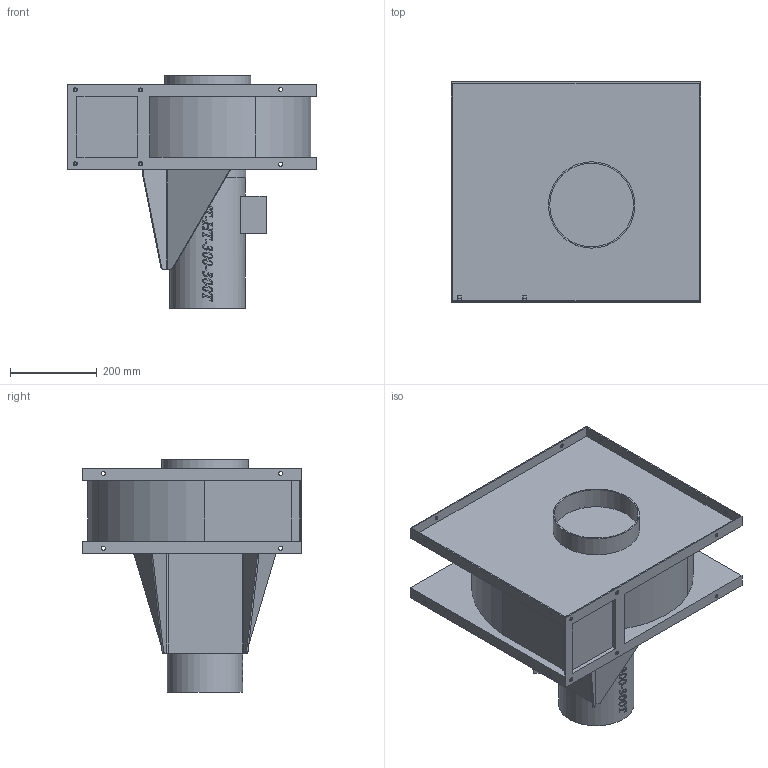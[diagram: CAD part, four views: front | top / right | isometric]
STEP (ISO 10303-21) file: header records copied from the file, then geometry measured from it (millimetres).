
FILE_DESCRIPTION(/* description */ (''),/* implementation_level */ '2;1');
FILE_NAME(/* name */ 'E:\Mariusz\Modele uproszczone\GMT-HT\Katalogowe\GMT_HT_300_300T RD270 43552455\GMT_HT_300_300T RD270 43552455\GMT_HT_300_300T RD270 43552455.stp',/* time_stamp */ '2019-11-04T13:51:10+01:00',/* author */ ('m.janczarek'),/* organization */ (''),/* preprocessor_version */ 'ST-DEVELOPER v16.13',/* originating_system */ 'Autodesk Inventor 2018',/* authorisation */ '');
FILE_SCHEMA (('AUTOMOTIVE_DESIGN { 1 0 10303 214 3 1 1 }'));
Products named in the file (1): GMT_HT_300_300T RD270 43552455
Bounding box: 574 x 506 x 535.5 mm (x, y, z)
Volume: 41399589.9 mm3; surface area: 1730040 mm2
Topology: 1 solids, 1 shells, 937 faces, 2609 edges, 1733 vertices
Faces by surface type: bspline 668, plane 156, cylinder 101, cone 12
Full cylindrical faces by diameter (mm): 6 x4, 6.6 x4, 8.9 x4, 9.2 x18, 173.6 x1, 177 x1, 192.5 x1, 198.5 x1, 393 x1
Entity records: 45681 total; most frequent: CARTESIAN_POINT 25753, ORIENTED_EDGE 5116, EDGE_CURVE 2558, DIRECTION 2218, VERTEX_POINT 1730, B_SPLINE_CURVE_WITH_KNOTS 1172, LINE 1094, VECTOR 1094
